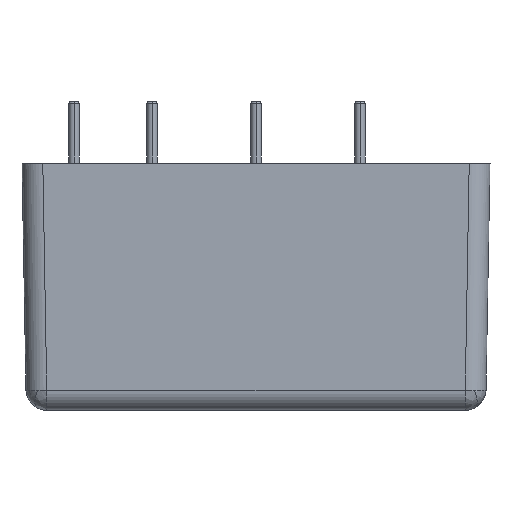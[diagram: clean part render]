
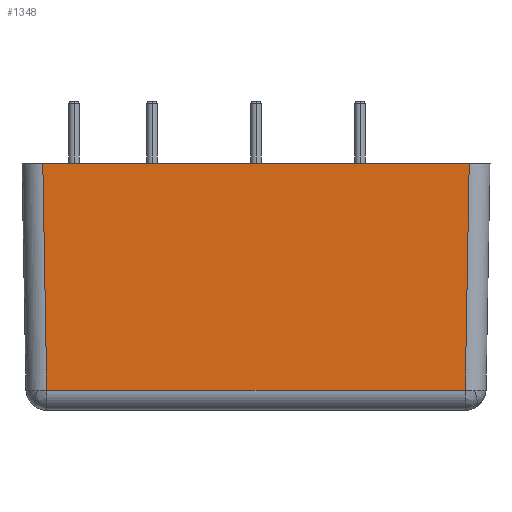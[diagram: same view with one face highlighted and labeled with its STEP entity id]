
A CAD part, left-side view. The second image highlights one B-rep face of the part: STEP entity #1348.
In plain terms, the highlighted planar face has unit normal (-1, 0, -0.018).
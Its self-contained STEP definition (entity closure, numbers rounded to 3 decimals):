
#133 = LINE ( 'NONE', #4384, #893 ) ;
#849 = EDGE_LOOP ( 'NONE', ( #2178, #1338, #3487, #2740 ) ) ;
#893 = VECTOR ( 'NONE', #2009, 1000. ) ;
#940 = CARTESIAN_POINT ( 'NONE',  ( -37.575, 21.288, 11.85 ) ) ;
#1080 = VERTEX_POINT ( 'NONE', #1185 ) ;
#1136 = EDGE_CURVE ( 'NONE', #1370, #1080, #3394, .T. ) ;
#1185 = CARTESIAN_POINT ( 'NONE',  ( -37.195, -19.333, -9.885 ) ) ;
#1336 = VECTOR ( 'NONE', #3689, 1000. ) ;
#1338 = ORIENTED_EDGE ( 'NONE', *, *, #3062, .T. ) ;
#1347 = LINE ( 'NONE', #3685, #1336 ) ;
#1348 = ADVANCED_FACE ( 'NONE', ( #3423 ), #2964, .T. ) ;
#1370 = VERTEX_POINT ( 'NONE', #1997 ) ;
#1993 = CARTESIAN_POINT ( 'NONE',  ( -37.195, -19.333, -9.885 ) ) ;
#1997 = CARTESIAN_POINT ( 'NONE',  ( -37.195, 20.909, -9.885 ) ) ;
#2009 = DIRECTION ( 'NONE',  ( 0.017, -0.017, -1. ) ) ;
#2092 = EDGE_CURVE ( 'NONE', #3074, #2899, #1347, .T. ) ;
#2127 = CARTESIAN_POINT ( 'NONE',  ( -37.195, 23.288, -9.885 ) ) ;
#2178 = ORIENTED_EDGE ( 'NONE', *, *, #2092, .F. ) ;
#2251 = CARTESIAN_POINT ( 'NONE',  ( -37.575, -19.712, 11.85 ) ) ;
#2271 = DIRECTION ( 'NONE',  ( 0., -1., 0. ) ) ;
#2359 = DIRECTION ( 'NONE',  ( -0.017, -0.017, 1. ) ) ;
#2389 = EDGE_CURVE ( 'NONE', #1080, #2899, #4432, .T. ) ;
#2492 = AXIS2_PLACEMENT_3D ( 'NONE', #2984, #2658, #2641 ) ;
#2641 = DIRECTION ( 'NONE',  ( -0.017, 0., 1. ) ) ;
#2658 = DIRECTION ( 'NONE',  ( -1., 0., -0.017 ) ) ;
#2740 = ORIENTED_EDGE ( 'NONE', *, *, #2389, .T. ) ;
#2899 = VERTEX_POINT ( 'NONE', #2251 ) ;
#2964 = PLANE ( 'NONE',  #2492 ) ;
#2984 = CARTESIAN_POINT ( 'NONE',  ( -37.575, 23.288, 11.85 ) ) ;
#3062 = EDGE_CURVE ( 'NONE', #3074, #1370, #133, .T. ) ;
#3074 = VERTEX_POINT ( 'NONE', #940 ) ;
#3394 = LINE ( 'NONE', #2127, #3402 ) ;
#3402 = VECTOR ( 'NONE', #2271, 1000. ) ;
#3423 = FACE_OUTER_BOUND ( 'NONE', #849, .T. ) ;
#3487 = ORIENTED_EDGE ( 'NONE', *, *, #1136, .T. ) ;
#3685 = CARTESIAN_POINT ( 'NONE',  ( -37.575, 0.788, 11.85 ) ) ;
#3689 = DIRECTION ( 'NONE',  ( 0., -1., 0. ) ) ;
#3825 = VECTOR ( 'NONE', #2359, 1000. ) ;
#4384 = CARTESIAN_POINT ( 'NONE',  ( -37.575, 21.288, 11.85 ) ) ;
#4432 = LINE ( 'NONE', #1993, #3825 ) ;
